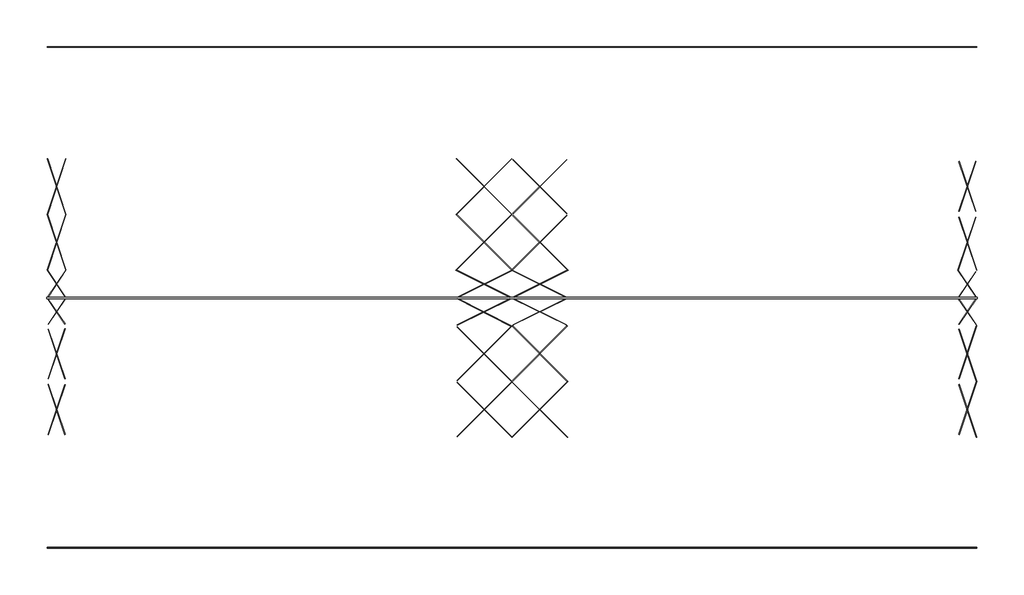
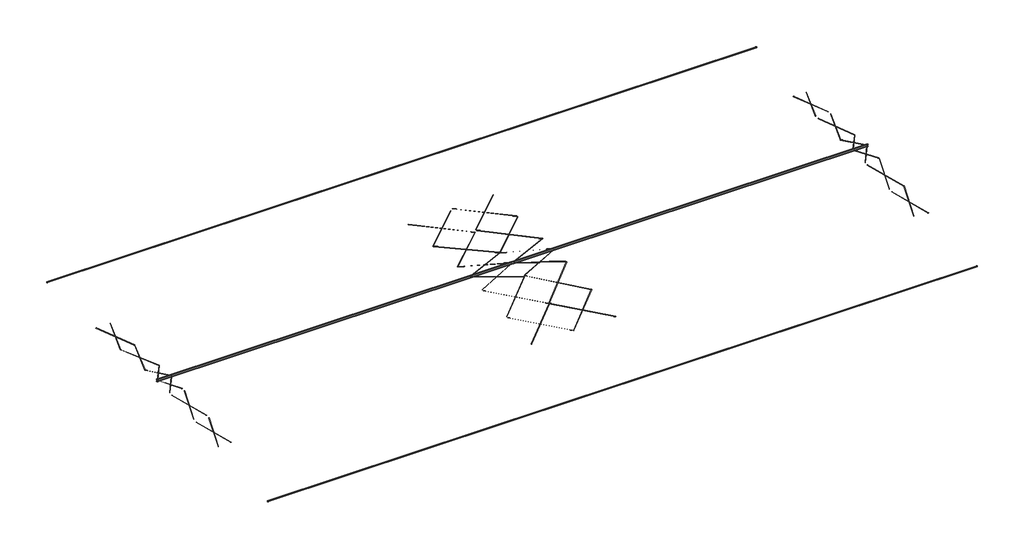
# One storey: 48 members, 3 beams.
"""IFC4 building model written with IfcOpenShell, lengths in millimetres."""

from ifc_helpers import new_model, si_unit, origin, place, context, project, spatial, transform, mapped, element, save
from components import ub_universal_beams_bf60295c, ub_universal_beams_ub305x165x40_7c90b40a, round_bars_rb_1_1_2_99246bff, round_bars_rb_1_1_2_64320407, round_bars_rb_1_1_2_148da2b3, round_bars_rb_1_1_2_9955500e, round_bars_rb_1_1_2_8b0b2b41, round_bars_rb_1_1_2_9ddfed39, round_bars_rb_1_1_2_64e711c5, round_bars_rb_1_1_2_125b7e9d, round_bars_rb_1_1_2_d22825d3, round_bars_rb_1_1_2_2e3cf56a, round_bars_rb_1_1_2_d34daba2, round_bars_rb_1_1_2_dfbd4282, round_bars_rb_1_1_2_ca92564a, round_bars_rb_1_1_2_217ab45a, round_bars_rb_1_1_2_a0f59c53, round_bars_rb_1_1_2_2f28657b, round_bars_rb_1_1_2_556780e7, round_bars_rb_1_1_2_e72c9891, round_bars_rb_1_1_2_3159af7d, round_bars_rb_1_1_2_035370a4, round_bars_rb_1_1_2_545409a3, round_bars_rb_1_1_2_5837fa32, round_bars_rb_1_1_2_9ad4c702, round_bars_rb_1_1_2_4f7fb45f, round_bars_rb_1_1_2_ac04effb, round_bars_rb_1_1_2_5c21ed1e, round_bars_rb_1_1_2_3d411ab3, round_bars_rb_1_1_2_7c641387, round_bars_rb_1_1_2_fa0580b7, round_bars_rb_1_1_2_715cc5c4, round_bars_rb_1_1_2_1d450b9f, round_bars_rb_1_1_2_ea80a22b, round_bars_rb_1_1_2_55a6092e, round_bars_rb_1_1_2_fd4b45b6, round_bars_rb_1_1_2_32fb0a82, round_bars_rb_1_1_2_cdd3f9c2, round_bars_rb_1_1_2_d26ad5d6, round_bars_rb_1_1_2_83610141

model = new_model("IFC4")

# Units and contexts
model_context = context("Model", 3, world=origin())
ifc_project = project(units=[si_unit("LENGTHUNIT", "METRE", prefix="MILLI")], contexts=[model_context])

# Site, building, storey
site = spatial("IfcSite", under=ifc_project)
building = spatial("IfcBuilding", under=site)
storey = spatial("IfcBuildingStorey", under=building, Name="Gornji pojas resetke", Elevation=8000.0)

# Beams
placement = place(None, origin())
ub_universal_beams_shape = ub_universal_beams_bf60295c(model_context)
element("IfcBeam", 1, ObjectType="UB-Universal Beams : Vezne grede resetke", at=placement, inside=storey, context=model_context, shape_type="MappedRepresentation", body=[
    mapped(ub_universal_beams_shape, transform((41063.6750595, -49851.8714257, 6428.4992192), x_axis=(1.0, 0.0, 0.0), y_axis=(0.0, 0.9977782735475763, 0.06662219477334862), z_axis=(0.0, -0.06662219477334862, 0.9977782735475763))),
])
element("IfcBeam", 2, ObjectType="UB-Universal Beams : Vezne grede resetke", at=placement, inside=storey, context=model_context, shape_type="MappedRepresentation", body=[
    mapped(ub_universal_beams_shape, transform((41063.6750595, 4045.1472611, 6378.6103055), x_axis=(1.0, 0.0, 0.0), y_axis=(0.0, 0.9977782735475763, 0.06662219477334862), z_axis=(0.0, -0.06662219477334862, 0.9977782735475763))),
])
ub_universal_beams_ub305x165x40_shape = ub_universal_beams_ub305x165x40_7c90b40a(model_context)
element("IfcBeam", 3, ObjectType="UB-Universal Beams : UB305x165x40", at=placement, inside=storey, context=model_context, shape_type="MappedRepresentation", body=[
    mapped(ub_universal_beams_ub305x165x40_shape, transform((41063.6750595, -22966.8171651, 8153.4), x_axis=(1.0, 0.0, 0.0), y_axis=(0.0, 1.0, 0.0), z_axis=(0.0, 0.0, 1.0))),
])

# Members
round_bars_rb_1_1_2_shape = round_bars_rb_1_1_2_99246bff(model_context)
element("IfcMember", 4, ObjectType="Round Bars : RB 1 1/2", at=placement, inside=storey, context=model_context, shape_type="MappedRepresentation", body=[
    mapped(round_bars_rb_1_1_2_shape, transform((-7936.3249405, -34971.1362568, 7351.4120606), x_axis=(-0.31600681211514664, -0.9466555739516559, -0.06311037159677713), y_axis=(0.9485464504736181, -0.31663801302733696, 0.0), z_axis=(-0.019983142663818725, -0.05986311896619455, 0.9980065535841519))),
])
round_bars_rb_1_1_2_2_shape = round_bars_rb_1_1_2_64320407(model_context)
element("IfcMember", 5, ObjectType="Round Bars : RB 1 1/2", at=placement, inside=storey, context=model_context, shape_type="MappedRepresentation", body=[
    mapped(round_bars_rb_1_1_2_2_shape, transform((-7936.3249405, -34964.8132039, 7351.8335974), x_axis=(0.31540749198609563, -0.946854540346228, -0.06312363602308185), y_axis=(0.9487466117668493, 0.3160377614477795, 0.0), z_axis=(0.01994945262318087, -0.05988833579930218, 0.9980057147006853))),
])
round_bars_rb_1_1_2_3_shape = round_bars_rb_1_1_2_148da2b3(model_context)
element("IfcMember", 6, ObjectType="Round Bars : RB 1 1/2", at=placement, inside=storey, context=model_context, shape_type="MappedRepresentation", body=[
    mapped(round_bars_rb_1_1_2_3_shape, transform((-7936.3249405, -28969.1236719, 7751.5462329), x_axis=(-0.31638696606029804, -0.9465291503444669, -0.06310194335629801), y_axis=(0.9484192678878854, -0.3170187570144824, 0.0), z_axis=(-0.020004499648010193, -0.05984709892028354, 0.9980070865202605))),
])
round_bars_rb_1_1_2_4_shape = round_bars_rb_1_1_2_9955500e(model_context)
element("IfcMember", 7, ObjectType="Round Bars : RB 1 1/2", at=placement, inside=storey, context=model_context, shape_type="MappedRepresentation", body=[
    mapped(round_bars_rb_1_1_2_4_shape, transform((-7936.3249405, -28989.7894626, 7750.1685135), x_axis=(0.3165186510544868, -0.9464853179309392, -0.0630990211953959), y_axis=(0.9483751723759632, 0.3171506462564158, 0.0), z_axis=(0.02001189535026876, -0.059841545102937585, 0.9980072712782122))),
])
round_bars_rb_1_1_2_5_shape = round_bars_rb_1_1_2_8b0b2b41(model_context)
element("IfcMember", 8, ObjectType="Round Bars : RB 1 1/2", at=placement, inside=storey, context=model_context, shape_type="MappedRepresentation", body=[
    mapped(round_bars_rb_1_1_2_5_shape, transform((-7936.3249405, -24446.1407708, 8053.0784263), x_axis=(0.5591929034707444, -0.8272013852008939, -0.05514675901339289), y_axis=(0.828462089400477, 0.5600451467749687, 0.0), z_axis=(0.030884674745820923, -0.04568699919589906, 0.9984782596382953))),
])
round_bars_rb_1_1_2_6_shape = round_bars_rb_1_1_2_9ddfed39(model_context)
element("IfcMember", 9, ObjectType="Round Bars : RB 1 1/2", at=placement, inside=storey, context=model_context, shape_type="MappedRepresentation", body=[
    mapped(round_bars_rb_1_1_2_6_shape, transform((44063.6750595, -10975.6789865, 7352.2907881), x_axis=(0.7071067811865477, 0.7055406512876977, -0.04703604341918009), y_axis=(-0.7063224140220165, 0.7078902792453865, 0.0), z_axis=(0.03329635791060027, 0.033222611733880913, 0.998893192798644))),
])
element("IfcMember", 10, ObjectType="Round Bars : RB 1 1/2", at=placement, inside=storey, context=model_context, shape_type="MappedRepresentation", body=[
    mapped(round_bars_rb_1_1_2_6_shape, transform((44063.6750595, -10975.6789865, 7352.2907881), x_axis=(-0.7071067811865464, 0.705540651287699, -0.047036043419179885), y_axis=(-0.7063224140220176, -0.7078902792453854, 0.0), z_axis=(-0.033296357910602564, 0.033222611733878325, 0.998893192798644))),
])
element("IfcMember", 11, ObjectType="Round Bars : RB 1 1/2", at=placement, inside=storey, context=model_context, shape_type="MappedRepresentation", body=[
    mapped(round_bars_rb_1_1_2_6_shape, transform((38063.6750595, -34976.4449022, 7351.0581509), x_axis=(-0.7071067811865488, -0.7055406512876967, -0.04703604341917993), y_axis=(0.7063224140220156, -0.7078902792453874, 0.0), z_axis=(-0.0332963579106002, -0.03322261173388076, 0.9988931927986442))),
])
element("IfcMember", 12, ObjectType="Round Bars : RB 1 1/2", at=placement, inside=storey, context=model_context, shape_type="MappedRepresentation", body=[
    mapped(round_bars_rb_1_1_2_6_shape, transform((38063.6750595, -34951.0761123, 7352.7494035), x_axis=(0.7071067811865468, -0.7055406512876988, -0.047036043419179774), y_axis=(0.7063224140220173, 0.7078902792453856, 0.0), z_axis=(0.0332963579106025, -0.03322261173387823, 0.9988931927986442))),
])
element("IfcMember", 13, ObjectType="Round Bars : RB 1 1/2", at=placement, inside=storey, context=model_context, shape_type="MappedRepresentation", body=[
    mapped(round_bars_rb_1_1_2_6_shape, transform((38063.6750595, -28947.2379874, 7753.0052785), x_axis=(-0.7071067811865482, -0.7055406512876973, -0.047036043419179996), y_axis=(0.7063224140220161, -0.7078902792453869, 0.0), z_axis=(-0.03329635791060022, -0.03322261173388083, 0.9988931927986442))),
])
element("IfcMember", 14, ObjectType="Round Bars : RB 1 1/2", at=placement, inside=storey, context=model_context, shape_type="MappedRepresentation", body=[
    mapped(round_bars_rb_1_1_2_6_shape, transform((38063.6750595, -28980.7818229, 7750.7690228), x_axis=(0.7071067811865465, -0.705540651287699, -0.04703604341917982), y_axis=(0.7063224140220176, 0.7078902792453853, 0.0), z_axis=(0.03329635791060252, -0.03322261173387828, 0.998893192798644))),
])
round_bars_rb_1_1_2_7_shape = round_bars_rb_1_1_2_64e711c5(model_context)
element("IfcMember", 15, ObjectType="Round Bars : RB 1 1/2", at=placement, inside=storey, context=model_context, shape_type="MappedRepresentation", body=[
    mapped(round_bars_rb_1_1_2_7_shape, transform((38063.6750595, -24492.054234, 8050.0175287), x_axis=(0.8910065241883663, -0.4529849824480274, -0.03019899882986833), y_axis=(0.4531916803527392, 0.8914130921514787, 0.0), z_axis=(0.02691978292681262, -0.013685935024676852, 0.9995439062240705))),
])
round_bars_rb_1_1_2_8_shape = round_bars_rb_1_1_2_125b7e9d(model_context)
element("IfcMember", 16, ObjectType="Round Bars : RB 1 1/2", at=placement, inside=storey, context=model_context, shape_type="MappedRepresentation", body=[
    mapped(round_bars_rb_1_1_2_8_shape, transform((90063.6750595, -10966.1268978, 7351.6539822), x_axis=(0.3156625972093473, 0.946769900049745, -0.06311799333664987), y_axis=(-0.9486614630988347, 0.3162932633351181, 0.0), z_axis=(0.019963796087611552, 0.05987760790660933, 0.998006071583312))),
])
element("IfcMember", 17, ObjectType="Round Bars : RB 1 1/2", at=placement, inside=storey, context=model_context, shape_type="MappedRepresentation", body=[
    mapped(round_bars_rb_1_1_2_8_shape, transform((90063.6750595, -10966.1268978, 7351.6539822), x_axis=(-0.31566259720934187, 0.9467699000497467, -0.06311799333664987), y_axis=(-0.9486614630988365, -0.3162932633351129, 0.0), z_axis=(-0.019963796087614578, 0.059877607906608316, 0.9980060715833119))),
])
round_bars_rb_1_1_2_9_shape = round_bars_rb_1_1_2_d22825d3(model_context)
element("IfcMember", 18, ObjectType="Round Bars : RB 1 1/2", at=placement, inside=storey, context=model_context, shape_type="MappedRepresentation", body=[
    mapped(round_bars_rb_1_1_2_9_shape, transform((90065.1272988, -16964.2981638, 7699.8320666), x_axis=(0.3152289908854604, 0.9478575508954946, -0.046869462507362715), y_axis=(-0.9489003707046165, 0.3155758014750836, 0.0), z_axis=(0.014790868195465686, 0.04447445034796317, 0.9989010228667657))),
])
round_bars_rb_1_1_2_10_shape = round_bars_rb_1_1_2_2e3cf56a(model_context)
element("IfcMember", 19, ObjectType="Round Bars : RB 1 1/2", at=placement, inside=storey, context=model_context, shape_type="MappedRepresentation", body=[
    mapped(round_bars_rb_1_1_2_10_shape, transform((90063.6750595, -16973.0165121, 7700.4132898), x_axis=(-0.31646975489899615, 0.9474473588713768, -0.04680167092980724), y_axis=(-0.9484867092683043, -0.3168169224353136, 0.0), z_axis=(-0.014827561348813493, 0.044390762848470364, 0.9989042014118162))),
])
round_bars_rb_1_1_2_11_shape = round_bars_rb_1_1_2_d34daba2(model_context)
element("IfcMember", 20, ObjectType="Round Bars : RB 1 1/2", at=placement, inside=storey, context=model_context, shape_type="MappedRepresentation", body=[
    mapped(round_bars_rb_1_1_2_11_shape, transform((90057.1278333, -21466.7940273, 7999.9984575), x_axis=(-0.5552583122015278, 0.8274570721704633, -0.08368393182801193), y_axis=(-0.8303697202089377, -0.5572128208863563, 0.0), z_axis=(-0.046629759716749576, 0.06948860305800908, 0.9964923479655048))),
])
round_bars_rb_1_1_2_12_shape = round_bars_rb_1_1_2_dfbd4282(model_context)
element("IfcMember", 21, ObjectType="Round Bars : RB 1 1/2", at=placement, inside=storey, context=model_context, shape_type="MappedRepresentation", body=[
    mapped(round_bars_rb_1_1_2_12_shape, transform((44065.1626831, -16975.4462572, 7700.5752728), x_axis=(0.7075191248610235, 0.7058340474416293, -0.03485664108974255), y_axis=(-0.7062632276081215, 0.707949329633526, 0.0), z_axis=(0.0246767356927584, 0.024617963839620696, 0.9993923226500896))),
])
round_bars_rb_1_1_2_13_shape = round_bars_rb_1_1_2_ca92564a(model_context)
element("IfcMember", 22, ObjectType="Round Bars : RB 1 1/2", at=placement, inside=storey, context=model_context, shape_type="MappedRepresentation", body=[
    mapped(round_bars_rb_1_1_2_13_shape, transform((44061.6552211, -16975.0625552, 7700.5496927), x_axis=(-0.7074110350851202, 0.705942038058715, -0.034863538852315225), y_axis=(-0.7063714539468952, -0.7078413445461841, 0.0), z_axis=(-0.02467785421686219, 0.02462660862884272, 0.9993920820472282))),
])
round_bars_rb_1_1_2_14_shape = round_bars_rb_1_1_2_217ab45a(model_context)
element("IfcMember", 23, ObjectType="Round Bars : RB 1 1/2", at=placement, inside=storey, context=model_context, shape_type="MappedRepresentation", body=[
    mapped(round_bars_rb_1_1_2_14_shape, transform((-7937.8249405, -10966.8171651, 7048.4), x_axis=(0.3151702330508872, 0.946931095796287, -0.06316030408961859), y_axis=(-0.9488255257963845, 0.3158007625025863, 0.0), z_axis=(0.019946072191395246, 0.05992810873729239, 0.9980033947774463))),
])
round_bars_rb_1_1_2_15_shape = round_bars_rb_1_1_2_a0f59c53(model_context)
element("IfcMember", 24, ObjectType="Round Bars : RB 1 1/2", at=placement, inside=storey, context=model_context, shape_type="MappedRepresentation", body=[
    mapped(round_bars_rb_1_1_2_15_shape, transform((-7937.8249405, -10966.8171651, 7048.4), x_axis=(-0.31517023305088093, 0.9469310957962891, -0.0631603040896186), y_axis=(-0.9488255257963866, -0.31580076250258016, 0.0), z_axis=(-0.019946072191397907, 0.05992810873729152, 0.9980033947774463))),
])
round_bars_rb_1_1_2_16_shape = round_bars_rb_1_1_2_2f28657b(model_context)
element("IfcMember", 25, ObjectType="Round Bars : RB 1 1/2", at=placement, inside=storey, context=model_context, shape_type="MappedRepresentation", body=[
    mapped(round_bars_rb_1_1_2_16_shape, transform((-7937.8249405, -16966.8171651, 7548.4), x_axis=(0.3143896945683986, 0.9445859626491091, -0.09442711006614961), y_axis=(-0.9488255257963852, 0.31580076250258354, 0.0), z_axis=(0.02982015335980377, 0.0895948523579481, 0.9955317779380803))),
])
element("IfcMember", 26, ObjectType="Round Bars : RB 1 1/2", at=placement, inside=storey, context=model_context, shape_type="MappedRepresentation", body=[
    mapped(round_bars_rb_1_1_2_16_shape, transform((-7937.8249405, -16966.8171651, 7548.4), x_axis=(-0.3143896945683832, 0.9445859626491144, -0.09442711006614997), y_axis=(-0.9488255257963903, -0.31580076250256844, 0.0), z_axis=(-0.02982015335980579, 0.08959485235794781, 0.9955317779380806))),
])
round_bars_rb_1_1_2_17_shape = round_bars_rb_1_1_2_556780e7(model_context)
element("IfcMember", 27, ObjectType="Round Bars : RB 1 1/2", at=placement, inside=storey, context=model_context, shape_type="MappedRepresentation", body=[
    mapped(round_bars_rb_1_1_2_17_shape, transform((38063.6750595, -10966.8171651, 7048.4), x_axis=(0.7063216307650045, 0.7063216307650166, -0.04711165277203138), y_axis=(-0.7071067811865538, 0.7071067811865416, 0.0), z_axis=(0.03331296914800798, 0.03331296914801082, 0.9988896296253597))),
])
round_bars_rb_1_1_2_18_shape = round_bars_rb_1_1_2_e72c9891(model_context)
element("IfcMember", 28, ObjectType="Round Bars : RB 1 1/2", at=placement, inside=storey, context=model_context, shape_type="MappedRepresentation", body=[
    mapped(round_bars_rb_1_1_2_18_shape, transform((38063.6750595, -10966.8171651, 7048.4), x_axis=(-0.7063216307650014, 0.7063216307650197, -0.047111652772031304), y_axis=(-0.7071067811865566, -0.7071067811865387, 0.0), z_axis=(-0.03331296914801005, 0.03331296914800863, 0.9988896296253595))),
])
round_bars_rb_1_1_2_19_shape = round_bars_rb_1_1_2_3159af7d(model_context)
element("IfcMember", 29, ObjectType="Round Bars : RB 1 1/2", at=placement, inside=storey, context=model_context, shape_type="MappedRepresentation", body=[
    mapped(round_bars_rb_1_1_2_19_shape, transform((38065.1626831, -16966.8171651, 7548.4), x_axis=(0.7051709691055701, 0.7055208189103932, -0.07052856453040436), y_axis=(-0.7072821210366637, 0.7069313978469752, 0.0), z_axis=(0.04985885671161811, 0.049883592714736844, 0.9975097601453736))),
])
round_bars_rb_1_1_2_20_shape = round_bars_rb_1_1_2_035370a4(model_context)
element("IfcMember", 30, ObjectType="Round Bars : RB 1 1/2", at=placement, inside=storey, context=model_context, shape_type="MappedRepresentation", body=[
    mapped(round_bars_rb_1_1_2_20_shape, transform((38061.6552211, -16966.8171651, 7548.4), x_axis=(-0.7051080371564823, 0.7055830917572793, -0.07053478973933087), y_axis=(-0.7073448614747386, -0.7068686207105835, 0.0), z_axis=(-0.049858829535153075, 0.04989242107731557, 0.99750931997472))),
])
round_bars_rb_1_1_2_21_shape = round_bars_rb_1_1_2_545409a3(model_context)
element("IfcMember", 31, ObjectType="Round Bars : RB 1 1/2", at=placement, inside=storey, context=model_context, shape_type="MappedRepresentation", body=[
    mapped(round_bars_rb_1_1_2_21_shape, transform((90063.6750595, -34966.8171651, 7351.7), x_axis=(-0.3155972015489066, -0.9467916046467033, -0.06311944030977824), y_axis=(0.9486832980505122, -0.31622776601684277, 0.0), z_axis=(-0.019960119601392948, -0.05988035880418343, 0.9980059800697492))),
])
round_bars_rb_1_1_2_22_shape = round_bars_rb_1_1_2_5837fa32(model_context)
element("IfcMember", 32, ObjectType="Round Bars : RB 1 1/2", at=placement, inside=storey, context=model_context, shape_type="MappedRepresentation", body=[
    mapped(round_bars_rb_1_1_2_22_shape, transform((90063.6750595, -34963.3132039, 7351.8335974), x_axis=(0.31554884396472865, -0.9468055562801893, -0.06315192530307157), y_axis=(0.9486992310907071, 0.3161799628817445, 0.0), z_axis=(0.01996737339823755, -0.0599121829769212, 0.99800392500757))),
])
round_bars_rb_1_1_2_23_shape = round_bars_rb_1_1_2_9ad4c702(model_context)
element("IfcMember", 33, ObjectType="Round Bars : RB 1 1/2", at=placement, inside=storey, context=model_context, shape_type="MappedRepresentation", body=[
    mapped(round_bars_rb_1_1_2_23_shape, transform((90063.6750595, -28983.1539526, 7750.6108808), x_axis=(0.3171518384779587, -0.946274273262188, -0.06308495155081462), y_axis=(0.9481628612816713, 0.3177848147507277, 0.0), z_axis=(0.020047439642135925, -0.05981480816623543, 0.9980081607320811))),
])
round_bars_rb_1_1_2_24_shape = round_bars_rb_1_1_2_4f7fb45f(model_context)
element("IfcMember", 34, ObjectType="Round Bars : RB 1 1/2", at=placement, inside=storey, context=model_context, shape_type="MappedRepresentation", body=[
    mapped(round_bars_rb_1_1_2_24_shape, transform((44049.059195, -34965.3171651, 7351.7), x_axis=(-0.7064986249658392, -0.7061453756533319, -0.04709990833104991), y_axis=(0.7069299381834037, -0.7072835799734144, 0.0), z_axis=(-0.03331299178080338, -0.033296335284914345, 0.9988901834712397))),
])
round_bars_rb_1_1_2_25_shape = round_bars_rb_1_1_2_ac04effb(model_context)
element("IfcMember", 35, ObjectType="Round Bars : RB 1 1/2", at=placement, inside=storey, context=model_context, shape_type="MappedRepresentation", body=[
    mapped(round_bars_rb_1_1_2_25_shape, transform((44049.059195, -34965.3171651, 7351.7), x_axis=(0.7064986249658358, -0.7061453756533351, -0.04709990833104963), y_axis=(0.7069299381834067, 0.7072835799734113, 0.0), z_axis=(0.03331299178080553, -0.033296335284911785, 0.9988901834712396))),
])
round_bars_rb_1_1_2_26_shape = round_bars_rb_1_1_2_5c21ed1e(model_context)
element("IfcMember", 36, ObjectType="Round Bars : RB 1 1/2", at=placement, inside=storey, context=model_context, shape_type="MappedRepresentation", body=[
    mapped(round_bars_rb_1_1_2_26_shape, transform((90063.6750595, -28932.9165896, 7788.5281233), x_axis=(-0.312744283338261, -0.9469549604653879, -0.0739413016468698), y_axis=(0.9495542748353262, -0.31360274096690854, 0.0), z_axis=(-0.02318819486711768, -0.0702112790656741, 0.9972625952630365))),
])
round_bars_rb_1_1_2_27_shape = round_bars_rb_1_1_2_3d411ab3(model_context)
element("IfcMember", 37, ObjectType="Round Bars : RB 1 1/2", at=placement, inside=storey, context=model_context, shape_type="MappedRepresentation", body=[
    mapped(round_bars_rb_1_1_2_27_shape, transform((90063.6750595, -24435.945539, 8088.3261933), x_axis=(0.5623466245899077, -0.8261333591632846, -0.03563631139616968), y_axis=(0.8266584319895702, 0.562704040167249, 0.0), z_axis=(0.02005269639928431, -0.02945905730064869, 0.9993648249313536))),
])
round_bars_rb_1_1_2_28_shape = round_bars_rb_1_1_2_7c641387(model_context)
element("IfcMember", 38, ObjectType="Round Bars : RB 1 1/2", at=placement, inside=storey, context=model_context, shape_type="MappedRepresentation", body=[
    mapped(round_bars_rb_1_1_2_28_shape, transform((44050.8790661, -28934.1065608, 7788.4487919), x_axis=(-0.7023919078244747, -0.7096306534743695, -0.05540707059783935), y_axis=(0.7107224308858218, -0.7034725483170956, 0.0), z_axis=(-0.03897735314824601, -0.03937904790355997, 0.9984638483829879))),
])
round_bars_rb_1_1_2_29_shape = round_bars_rb_1_1_2_fa0580b7(model_context)
element("IfcMember", 39, ObjectType="Round Bars : RB 1 1/2", at=placement, inside=storey, context=model_context, shape_type="MappedRepresentation", body=[
    mapped(round_bars_rb_1_1_2_29_shape, transform((44049.4723203, -28935.9224012, 7788.3277359), x_axis=(0.7023457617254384, -0.709676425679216, -0.05540579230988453), y_axis=(0.7107682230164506, 0.703426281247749, 0.0), z_axis=(0.03897389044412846, -0.03938067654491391, 0.9984639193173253))),
])
round_bars_rb_1_1_2_30_shape = round_bars_rb_1_1_2_715cc5c4(model_context)
element("IfcMember", 40, ObjectType="Round Bars : RB 1 1/2", at=placement, inside=storey, context=model_context, shape_type="MappedRepresentation", body=[
    mapped(round_bars_rb_1_1_2_30_shape, transform((-7936.3249405, -24456.1178458, 8053.263288), x_axis=(-0.5565834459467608, -0.8289201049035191, -0.0557344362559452), y_axis=(0.8302105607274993, -0.5574499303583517, 0.0), z_axis=(-0.031069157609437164, -0.046271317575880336, 0.9984456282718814))),
])
round_bars_rb_1_1_2_31_shape = round_bars_rb_1_1_2_1d450b9f(model_context)
element("IfcMember", 41, ObjectType="Round Bars : RB 1 1/2", at=placement, inside=storey, context=model_context, shape_type="MappedRepresentation", body=[
    mapped(round_bars_rb_1_1_2_31_shape, transform((90063.673791, -24456.1178458, 8053.263288), x_axis=(-0.5565829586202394, -0.8289204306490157, -0.055734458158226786), y_axis=(0.8302108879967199, -0.5574494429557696, 0.0), z_axis=(-0.031069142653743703, -0.046271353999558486, 0.9984456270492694))),
])
round_bars_rb_1_1_2_32_shape = round_bars_rb_1_1_2_ea80a22b(model_context)
element("IfcMember", 42, ObjectType="Round Bars : RB 1 1/2", at=placement, inside=storey, context=model_context, shape_type="MappedRepresentation", body=[
    mapped(round_bars_rb_1_1_2_32_shape, transform((90063.6749416, -21477.5164845, 8053.263288), x_axis=(0.5565834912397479, 0.828920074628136, -0.05573443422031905), y_axis=(-0.8302105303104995, 0.5574499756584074, 0.0), z_axis=(0.03106915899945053, 0.04627131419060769, 0.9984456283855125))),
])
round_bars_rb_1_1_2_33_shape = round_bars_rb_1_1_2_55a6092e(model_context)
element("IfcMember", 43, ObjectType="Round Bars : RB 1 1/2", at=placement, inside=storey, context=model_context, shape_type="MappedRepresentation", body=[
    mapped(round_bars_rb_1_1_2_33_shape, transform((-7937.8249405, -21466.8171651, 8000.85), x_axis=(0.552148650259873, 0.829467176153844, -0.08435681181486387), y_axis=(-0.83243429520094, 0.5541237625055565, 0.0), z_axis=(0.046744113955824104, 0.07022150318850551, 0.9964356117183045))),
])
element("IfcMember", 44, ObjectType="Round Bars : RB 1 1/2", at=placement, inside=storey, context=model_context, shape_type="MappedRepresentation", body=[
    mapped(round_bars_rb_1_1_2_33_shape, transform((-7937.8249405, -21466.8171651, 8000.85), x_axis=(-0.5521486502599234, 0.8294671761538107, -0.08435681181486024), y_axis=(-0.832434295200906, -0.5541237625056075, 0.0), z_axis=(-0.046744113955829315, 0.07022150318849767, 0.9964356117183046))),
])
round_bars_rb_1_1_2_34_shape = round_bars_rb_1_1_2_fd4b45b6(model_context)
element("IfcMember", 45, ObjectType="Round Bars : RB 1 1/2", at=placement, inside=storey, context=model_context, shape_type="MappedRepresentation", body=[
    mapped(round_bars_rb_1_1_2_34_shape, transform((44074.6351146, -21466.8171651, 8000.85), x_axis=(0.8941589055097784, 0.4454520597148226, -0.04530247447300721), y_axis=(-0.445909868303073, 0.8950778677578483, 0.0), z_axis=(0.04054924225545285, 0.020200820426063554, 0.9989733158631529))),
])
element("IfcMember", 46, ObjectType="Round Bars : RB 1 1/2", at=placement, inside=storey, context=model_context, shape_type="MappedRepresentation", body=[
    mapped(round_bars_rb_1_1_2_34_shape, transform((38052.7150044, -21466.8171651, 8000.85), x_axis=(-0.8941589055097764, 0.44545205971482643, -0.04530247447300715), y_axis=(-0.4459098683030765, -0.8950778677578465, 0.0), z_axis=(-0.040549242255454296, 0.02020082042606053, 0.9989733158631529))),
])
round_bars_rb_1_1_2_35_shape = round_bars_rb_1_1_2_32fb0a82(model_context)
element("IfcMember", 47, ObjectType="Round Bars : RB 1 1/2", at=placement, inside=storey, context=model_context, shape_type="MappedRepresentation", body=[
    mapped(round_bars_rb_1_1_2_35_shape, transform((44063.6750595, -21472.2772451, 8001.126098), x_axis=(-0.8941555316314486, 0.44545037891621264, -0.04538551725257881), y_axis=(-0.4459098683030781, -0.8950778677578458, 0.0), z_axis=(-0.04062357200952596, 0.020237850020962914, 0.9989695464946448))),
])
round_bars_rb_1_1_2_36_shape = round_bars_rb_1_1_2_cdd3f9c2(model_context)
element("IfcMember", 48, ObjectType="Round Bars : RB 1 1/2", at=placement, inside=storey, context=model_context, shape_type="MappedRepresentation", body=[
    mapped(round_bars_rb_1_1_2_36_shape, transform((38063.6750595, -21472.2772451, 8001.126098), x_axis=(0.8941555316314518, 0.44545037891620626, -0.04538551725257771), y_axis=(-0.4459098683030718, 0.8950778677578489, 0.0), z_axis=(0.04062357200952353, 0.0202378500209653, 0.9989695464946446))),
])
round_bars_rb_1_1_2_37_shape = round_bars_rb_1_1_2_d26ad5d6(model_context)
element("IfcMember", 49, ObjectType="Round Bars : RB 1 1/2", at=placement, inside=storey, context=model_context, shape_type="MappedRepresentation", body=[
    mapped(round_bars_rb_1_1_2_37_shape, transform((38063.6750595, -24436.7975294, 8054.551309), x_axis=(-0.8975997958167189, -0.4398180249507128, -0.029575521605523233), y_axis=(0.4400105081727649, -0.8979926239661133, 0.0), z_axis=(-0.02655860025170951, -0.013013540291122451, 0.9995625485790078))),
])
round_bars_rb_1_1_2_38_shape = round_bars_rb_1_1_2_83610141(model_context)
element("IfcMember", 50, ObjectType="Round Bars : RB 1 1/2", at=placement, inside=storey, context=model_context, shape_type="MappedRepresentation", body=[
    mapped(round_bars_rb_1_1_2_38_shape, transform((44049.059195, -24435.9224012, 8089.1777359), x_axis=(-0.8979301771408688, -0.4397179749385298, -0.01922236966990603), y_axis=(0.4397992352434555, -0.8980961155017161, 0.0), z_axis=(-0.01726353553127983, -0.00845398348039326, 0.9998152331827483))),
])
element("IfcMember", 51, ObjectType="Round Bars : RB 1 1/2", at=placement, inside=storey, context=model_context, shape_type="MappedRepresentation", body=[
    mapped(round_bars_rb_1_1_2_38_shape, transform((44049.059195, -24435.9224012, 8089.1777359), x_axis=(0.8979301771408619, -0.4397179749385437, -0.019222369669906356), y_axis=(0.43979923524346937, 0.8980961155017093, 0.0), z_axis=(0.017263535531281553, -0.00845398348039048, 0.9998152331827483))),
])

save(model, "model.ifc")
